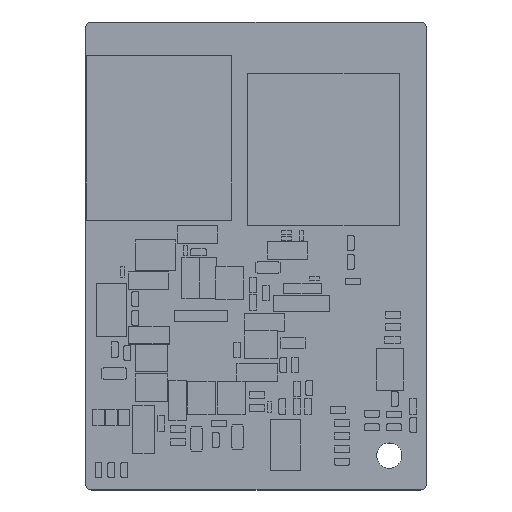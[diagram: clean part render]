
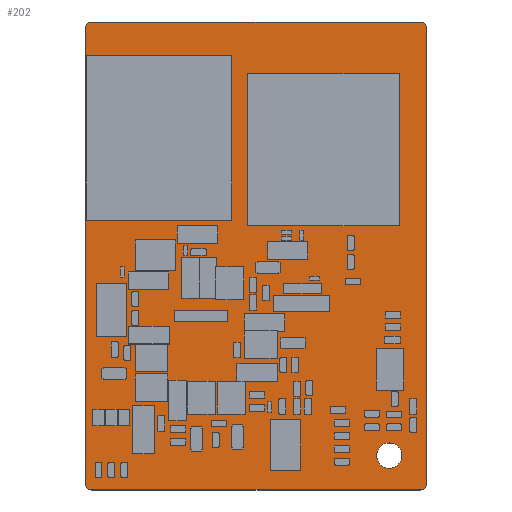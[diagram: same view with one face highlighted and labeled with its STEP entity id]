
A CAD part, top view. The second image highlights one B-rep face of the part: STEP entity #202.
In plain terms, the highlighted planar face has unit normal (0, 0, 1).
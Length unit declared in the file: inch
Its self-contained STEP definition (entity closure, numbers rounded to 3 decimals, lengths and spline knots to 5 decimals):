
#1=CARTESIAN_POINT('',(4.4617,5.3531,0.));
#2=DIRECTION('',(0.,0.,-1.));
#3=DIRECTION('',(1.,0.,0.));
#4=AXIS2_PLACEMENT_3D('',#1,#2,#3);
#6=CARTESIAN_POINT('',(3.43871,5.3531,0.));
#7=DIRECTION('',(0.,0.,-1.));
#8=DIRECTION('',(0.,-1.,0.));
#9=AXIS2_PLACEMENT_3D('',#6,#7,#8);
#11=CARTESIAN_POINT('',(3.43871,6.76979,0.));
#12=DIRECTION('',(0.,0.,-1.));
#13=DIRECTION('',(-1.,0.,0.));
#14=AXIS2_PLACEMENT_3D('',#11,#12,#13);
#16=CARTESIAN_POINT('',(4.4617,6.76979,0.));
#17=DIRECTION('',(0.,0.,-1.));
#18=DIRECTION('',(0.,1.,0.));
#19=AXIS2_PLACEMENT_3D('',#16,#17,#18);
#21=CARTESIAN_POINT('',(4.365,5.44,0.));
#22=DIRECTION('',(0.,0.,1.));
#23=DIRECTION('',(1.,0.,0.));
#24=AXIS2_PLACEMENT_3D('',#21,#22,#23);
#26=CARTESIAN_POINT('',(4.365,5.44,0.));
#27=DIRECTION('',(0.,0.,1.));
#28=DIRECTION('',(-1.,0.,0.));
#29=AXIS2_PLACEMENT_3D('',#26,#27,#28);
#39=DIRECTION('',(0.,1.,0.));
#40=VECTOR('',#39,1.41669);
#41=CARTESIAN_POINT('',(4.4817,5.3531,0.));
#42=LINE('',#41,#40);
#55=DIRECTION('',(-1.,0.,0.));
#56=VECTOR('',#55,1.02299);
#57=CARTESIAN_POINT('',(4.4617,6.78979,0.));
#58=LINE('',#57,#56);
#71=DIRECTION('',(0.,-1.,0.));
#72=VECTOR('',#71,1.41669);
#73=CARTESIAN_POINT('',(3.41871,6.76979,0.));
#74=LINE('',#73,#72);
#87=DIRECTION('',(1.,0.,0.));
#88=VECTOR('',#87,1.02299);
#89=CARTESIAN_POINT('',(3.43871,5.3331,0.));
#90=LINE('',#89,#88);
#133=CARTESIAN_POINT('',(4.4817,5.3531,0.));
#134=CARTESIAN_POINT('',(4.4617,5.3331,0.));
#135=VERTEX_POINT('',#133);
#136=VERTEX_POINT('',#134);
#137=CARTESIAN_POINT('',(3.43871,5.3331,0.));
#138=VERTEX_POINT('',#137);
#139=CARTESIAN_POINT('',(3.41871,5.3531,0.));
#140=VERTEX_POINT('',#139);
#141=CARTESIAN_POINT('',(3.41871,6.76979,0.));
#142=VERTEX_POINT('',#141);
#143=CARTESIAN_POINT('',(3.43871,6.78979,0.));
#144=VERTEX_POINT('',#143);
#145=CARTESIAN_POINT('',(4.4617,6.78979,0.));
#146=VERTEX_POINT('',#145);
#147=CARTESIAN_POINT('',(4.4817,6.76979,0.));
#148=VERTEX_POINT('',#147);
#165=CARTESIAN_POINT('',(4.40437,5.44,0.));
#166=CARTESIAN_POINT('',(4.32563,5.44,0.));
#167=VERTEX_POINT('',#165);
#168=VERTEX_POINT('',#166);
#173=CARTESIAN_POINT('',(4.4617,5.3331,0.));
#174=DIRECTION('',(0.,0.,1.));
#175=DIRECTION('',(1.,0.,0.));
#176=AXIS2_PLACEMENT_3D('',#173,#174,#175);
#177=PLANE('',#176);
#179=ORIENTED_EDGE('',*,*,#178,.T.);
#181=ORIENTED_EDGE('',*,*,#180,.F.);
#183=ORIENTED_EDGE('',*,*,#182,.T.);
#185=ORIENTED_EDGE('',*,*,#184,.F.);
#187=ORIENTED_EDGE('',*,*,#186,.T.);
#189=ORIENTED_EDGE('',*,*,#188,.F.);
#191=ORIENTED_EDGE('',*,*,#190,.T.);
#193=ORIENTED_EDGE('',*,*,#192,.F.);
#194=EDGE_LOOP('',(#179,#181,#183,#185,#187,#189,#191,#193));
#195=FACE_OUTER_BOUND('',#194,.F.);
#197=ORIENTED_EDGE('',*,*,#196,.T.);
#199=ORIENTED_EDGE('',*,*,#198,.T.);
#200=EDGE_LOOP('',(#197,#199));
#201=FACE_BOUND('',#200,.F.);
#202=ADVANCED_FACE('',(#195,#201),#177,.T.);
#5=CIRCLE('',#4,0.02);
#10=CIRCLE('',#9,0.02);
#15=CIRCLE('',#14,0.02);
#20=CIRCLE('',#19,0.02);
#25=CIRCLE('',#24,0.03937);
#30=CIRCLE('',#29,0.03937);
#178=EDGE_CURVE('',#135,#136,#5,.T.);
#180=EDGE_CURVE('',#138,#136,#90,.T.);
#182=EDGE_CURVE('',#138,#140,#10,.T.);
#184=EDGE_CURVE('',#142,#140,#74,.T.);
#186=EDGE_CURVE('',#142,#144,#15,.T.);
#188=EDGE_CURVE('',#146,#144,#58,.T.);
#190=EDGE_CURVE('',#146,#148,#20,.T.);
#192=EDGE_CURVE('',#135,#148,#42,.T.);
#196=EDGE_CURVE('',#167,#168,#25,.T.);
#198=EDGE_CURVE('',#168,#167,#30,.T.);
